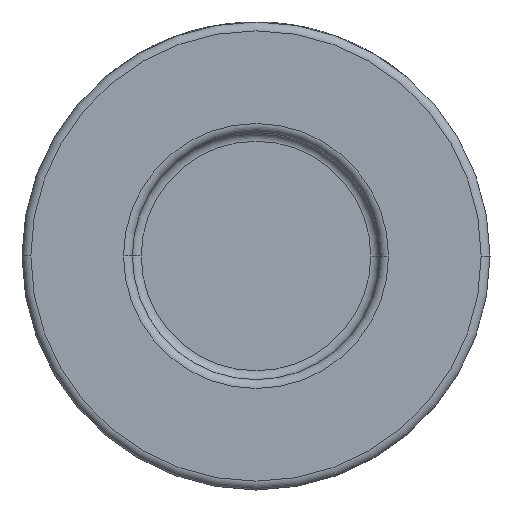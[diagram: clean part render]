
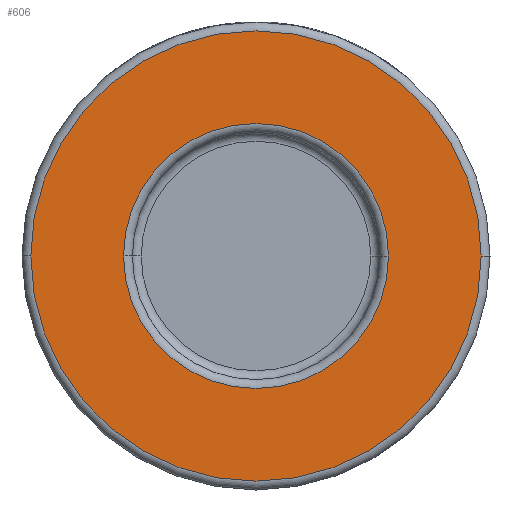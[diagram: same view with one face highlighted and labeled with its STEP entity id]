
A CAD part, front view. The second image highlights one B-rep face of the part: STEP entity #606.
In plain terms, the highlighted planar face has unit normal (0, -1, 0).
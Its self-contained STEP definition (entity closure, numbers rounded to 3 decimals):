
#112 = EDGE_LOOP ( 'NONE', ( #736, #3844 ) ) ;
#130 = DIRECTION ( 'NONE',  ( 0., 1., 0. ) ) ;
#446 = VERTEX_POINT ( 'NONE', #608 ) ;
#606 = ADVANCED_FACE ( 'NONE', ( #671, #1732 ), #1400, .T. ) ;
#608 = CARTESIAN_POINT ( 'NONE',  ( 15., -20., 0. ) ) ;
#671 = FACE_BOUND ( 'NONE', #112, .T. ) ;
#736 = ORIENTED_EDGE ( 'NONE', *, *, #3944, .T. ) ;
#833 = DIRECTION ( 'NONE',  ( 0., 1., 0. ) ) ;
#919 = AXIS2_PLACEMENT_3D ( 'NONE', #1876, #130, #1524 ) ;
#925 = DIRECTION ( 'NONE',  ( 0., -1., 0. ) ) ;
#1005 = DIRECTION ( 'NONE',  ( 0., -1., 0. ) ) ;
#1051 = AXIS2_PLACEMENT_3D ( 'NONE', #3487, #3798, #1425 ) ;
#1124 = AXIS2_PLACEMENT_3D ( 'NONE', #2934, #833, #2524 ) ;
#1400 = PLANE ( 'NONE',  #1051 ) ;
#1407 = CIRCLE ( 'NONE', #2509, 25.5 ) ;
#1425 = DIRECTION ( 'NONE',  ( 1., 0., 0. ) ) ;
#1443 = ORIENTED_EDGE ( 'NONE', *, *, #2465, .T. ) ;
#1483 = CIRCLE ( 'NONE', #1124, 15. ) ;
#1493 = AXIS2_PLACEMENT_3D ( 'NONE', #3452, #1005, #4193 ) ;
#1524 = DIRECTION ( 'NONE',  ( 1., 0., 0. ) ) ;
#1610 = DIRECTION ( 'NONE',  ( 1., 0., 0. ) ) ;
#1732 = FACE_OUTER_BOUND ( 'NONE', #4007, .T. ) ;
#1808 = CARTESIAN_POINT ( 'NONE',  ( -25.5, -20., 0. ) ) ;
#1876 = CARTESIAN_POINT ( 'NONE',  ( 0., -20., 0. ) ) ;
#2298 = CARTESIAN_POINT ( 'NONE',  ( 25.5, -20., 0. ) ) ;
#2334 = VERTEX_POINT ( 'NONE', #4181 ) ;
#2465 = EDGE_CURVE ( 'NONE', #3565, #2478, #1407, .T. ) ;
#2478 = VERTEX_POINT ( 'NONE', #2298 ) ;
#2509 = AXIS2_PLACEMENT_3D ( 'NONE', #4027, #925, #1610 ) ;
#2524 = DIRECTION ( 'NONE',  ( 1., 0., 0. ) ) ;
#2934 = CARTESIAN_POINT ( 'NONE',  ( 0., -20., 0. ) ) ;
#2971 = ORIENTED_EDGE ( 'NONE', *, *, #3455, .T. ) ;
#3377 = EDGE_CURVE ( 'NONE', #2334, #446, #1483, .T. ) ;
#3452 = CARTESIAN_POINT ( 'NONE',  ( 0., -20., 0. ) ) ;
#3455 = EDGE_CURVE ( 'NONE', #2478, #3565, #4207, .T. ) ;
#3487 = CARTESIAN_POINT ( 'NONE',  ( 26.5, -20., 0. ) ) ;
#3565 = VERTEX_POINT ( 'NONE', #1808 ) ;
#3798 = DIRECTION ( 'NONE',  ( 0., -1., 0. ) ) ;
#3844 = ORIENTED_EDGE ( 'NONE', *, *, #3377, .T. ) ;
#3944 = EDGE_CURVE ( 'NONE', #446, #2334, #4140, .T. ) ;
#4007 = EDGE_LOOP ( 'NONE', ( #2971, #1443 ) ) ;
#4027 = CARTESIAN_POINT ( 'NONE',  ( 0., -20., 0. ) ) ;
#4140 = CIRCLE ( 'NONE', #919, 15. ) ;
#4181 = CARTESIAN_POINT ( 'NONE',  ( -15., -20., 0. ) ) ;
#4193 = DIRECTION ( 'NONE',  ( 1., 0., 0. ) ) ;
#4207 = CIRCLE ( 'NONE', #1493, 25.5 ) ;
